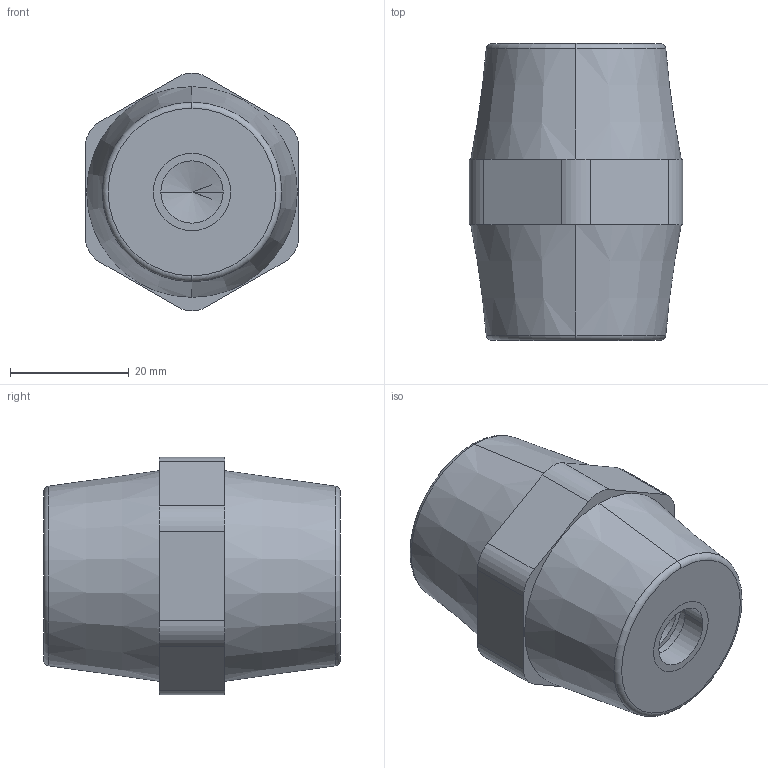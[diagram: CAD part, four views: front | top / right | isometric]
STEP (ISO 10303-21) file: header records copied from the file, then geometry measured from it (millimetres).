
FILE_DESCRIPTION (( 'STEP AP203' ), '1' );
FILE_NAME ('Isolatore 5069 30X50-M10.STEP', '2024-10-28T23:06:50', ( '' ), ( '' ), 'SwSTEP 2.0', 'SolidWorks 2020', '' );
FILE_SCHEMA (( 'CONFIG_CONTROL_DESIGN' ));
Length unit declared in the file: millimetre
Products named in the file (1): Isolatore 5069 30X50-M10
Bounding box: 36 x 50 x 40.02 mm (x, y, z)
Volume: 42759.4 mm3; surface area: 11207.8 mm2
Topology: 3 solids, 3 shells, 87 faces, 191 edges, 116 vertices
Faces by surface type: cylinder 43, plane 24, cone 16, torus 4
Entity records: 2408 total; most frequent: DIRECTION 457, CARTESIAN_POINT 383, ORIENTED_EDGE 358, AXIS2_PLACEMENT_3D 190, EDGE_CURVE 179, VERTEX_POINT 116, EDGE_LOOP 105, CIRCLE 102
